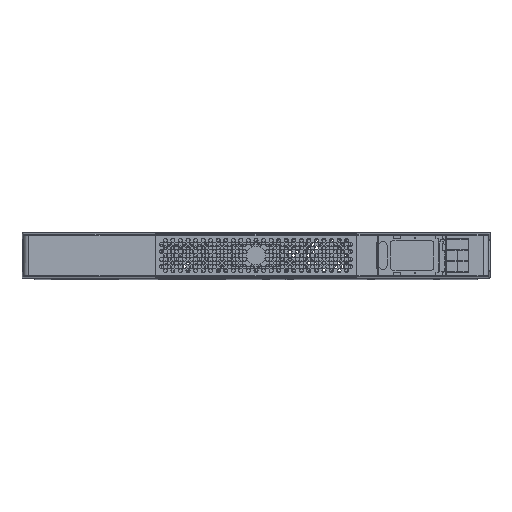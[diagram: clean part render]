
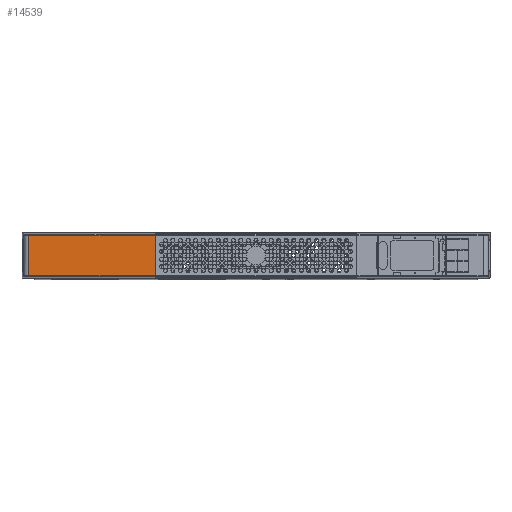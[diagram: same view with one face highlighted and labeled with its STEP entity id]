
A CAD part, top view. The second image highlights one B-rep face of the part: STEP entity #14539.
In plain terms, the highlighted planar face has unit normal (0, 0, 1).
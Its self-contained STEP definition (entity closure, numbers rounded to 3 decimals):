
#13635=DIRECTION('',(0.,-1.,0.));
#13636=VECTOR('',#13635,37.748);
#13637=CARTESIAN_POINT('',(-94.423,40.474,551.));
#13638=LINE('',#13637,#13636);
#13639=DIRECTION('',(1.,0.,0.));
#13640=VECTOR('',#13639,118.155);
#13641=CARTESIAN_POINT('',(-212.578,2.726,
551.));
#13642=LINE('',#13641,#13640);
#13643=DIRECTION('',(0.,-1.,0.));
#13644=VECTOR('',#13643,37.748);
#13645=CARTESIAN_POINT('',(-212.578,40.474,
551.));
#13646=LINE('',#13645,#13644);
#13647=DIRECTION('',(-1.,0.,0.));
#13648=VECTOR('',#13647,118.155);
#13649=CARTESIAN_POINT('',(-94.423,40.474,551.));
#13650=LINE('',#13649,#13648);
#13841=CARTESIAN_POINT('',(-94.423,40.474,551.));
#14302=CARTESIAN_POINT('',(-212.578,40.474,
551.));
#14304=VERTEX_POINT('',#14302);
#14305=CARTESIAN_POINT('',(-212.578,2.726,551.));
#14307=VERTEX_POINT('',#14305);
#14511=VERTEX_POINT('',#13841);
#14512=CARTESIAN_POINT('',(-94.423,2.726,551.));
#14513=VERTEX_POINT('',#14512);
#14524=CARTESIAN_POINT('',(0.,21.6,551.));
#14525=DIRECTION('',(0.,0.,1.));
#14526=DIRECTION('',(1.,0.,0.));
#14527=AXIS2_PLACEMENT_3D('',#14524,#14525,#14526);
#14528=PLANE('',#14527);
#14530=ORIENTED_EDGE('',*,*,#14529,.T.);
#14532=ORIENTED_EDGE('',*,*,#14531,.F.);
#14534=ORIENTED_EDGE('',*,*,#14533,.F.);
#14536=ORIENTED_EDGE('',*,*,#14535,.F.);
#14537=EDGE_LOOP('',(#14530,#14532,#14534,#14536));
#14538=FACE_OUTER_BOUND('',#14537,.F.);
#14539=ADVANCED_FACE('',(#14538),#14528,.T.);
#14529=EDGE_CURVE('',#14511,#14513,#13638,.T.);
#14531=EDGE_CURVE('',#14307,#14513,#13642,.T.);
#14533=EDGE_CURVE('',#14304,#14307,#13646,.T.);
#14535=EDGE_CURVE('',#14511,#14304,#13650,.T.);
